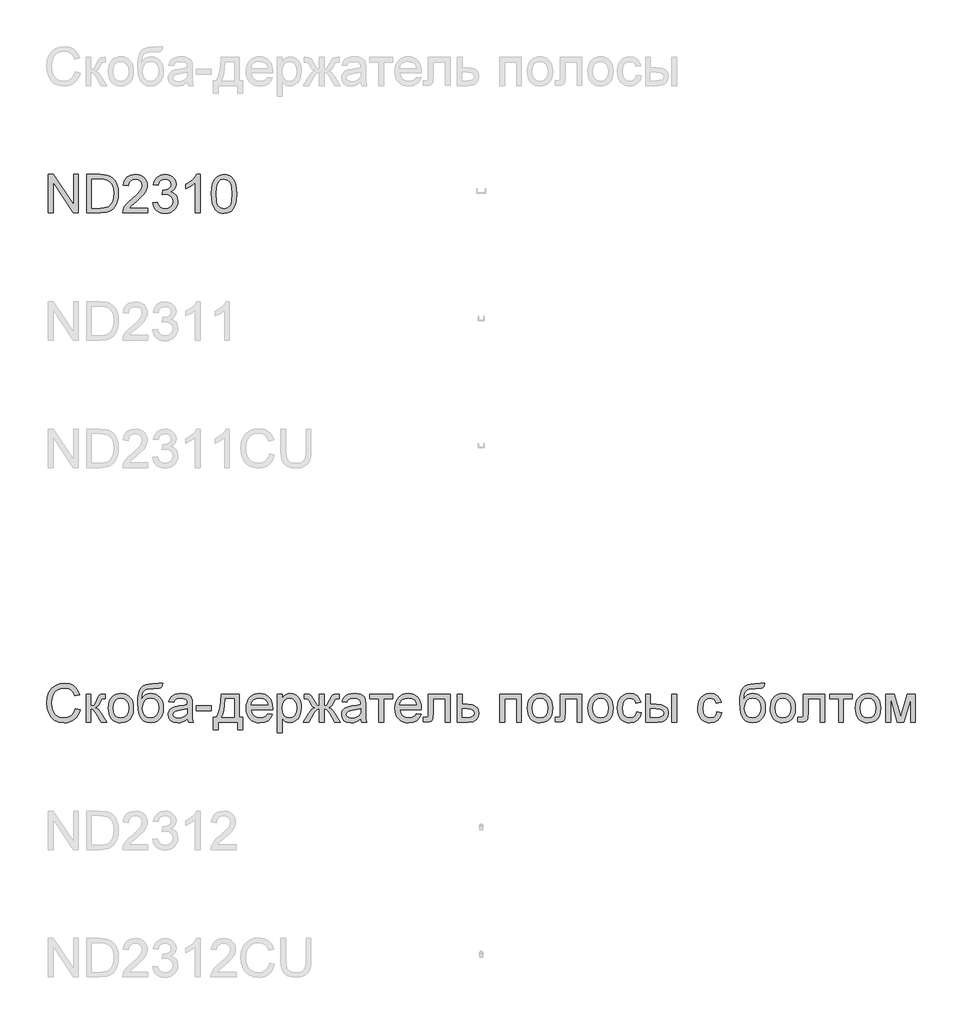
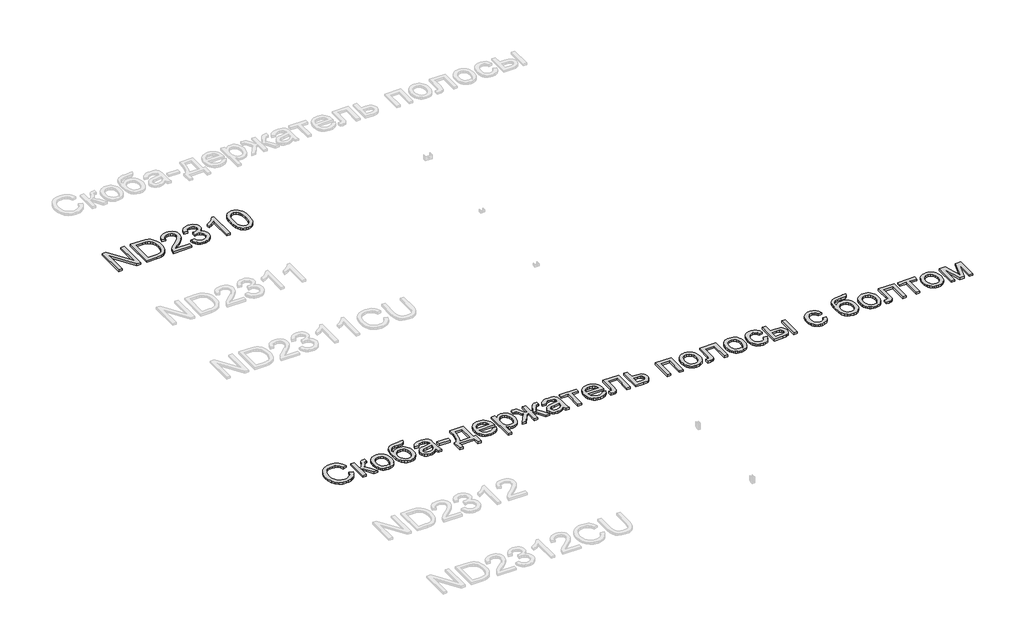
# One storey, part 106 of 124: 2 proxies.
"""IFC4 building model written with IfcOpenShell, lengths in millimetres."""

from ifc_helpers import new_model, si_unit, origin, origin_with_axes, place, context, project, spatial, polyline, outline, extrude, element, save

model = new_model("IFC4")

# Units and contexts
model_context = context("Model", 3, world=origin())
ifc_project = project(units=[si_unit("LENGTHUNIT", "METRE", prefix="MILLI")], contexts=[model_context])

# Site, building, storey
site = spatial("IfcSite", under=ifc_project)
building = spatial("IfcBuilding", under=site)
storey = spatial("IfcBuildingStorey", under=building, Name="Этаж 01", Elevation=0.0)

# Proxies
placement = place(None, origin())
element("IfcBuildingElementProxy", 1, Name="300", ObjectType="300", at=placement, inside=storey, context=model_context, shape_type="SweptSolid", body=[
    extrude(outline(polyline([(34161.4897718, -20050.5404686), (34161.4897718, -19749.1715382), (34201.8096385, -19749.1715382), (34359.2631324, -19987.9269531), (34359.2631324, -19749.1715382), (34396.9342487, -19749.1715382), (34396.9342487, -20050.5404686), (34356.6143821, -20050.5404686), (34199.1608881, -19811.7114774), (34199.1608881, -20050.5404686), (34161.4897718, -20050.5404686)])), origin_with_axes(), (0.0, 0.0, 1.0), 20.0),
    extrude(outline(polyline([(34462.8587023, -20050.5404686), (34462.8587023, -19749.1715382), (34566.8221541, -19749.1715382), (34620.6065018, -19753.5125457), (34644.6291961, -19761.8818611), (34664.899494, -19775.0704306), (34685.7400091, -19798.0262671), (34700.5840476, -19826.57391), (34709.4683977, -19860.1615361), (34712.4298478, -19898.2373226), (34710.4248909, -19930.5833471), (34704.4100203, -19959.0482164), (34695.2497586, -19983.2824429), (34683.8086286, -20002.9365385), (34670.6384532, -20018.4519616), (34656.2910553, -20030.2701707), (34639.819139, -20039.0349592), (34620.275408, -20045.3901207), (34571.8253492, -20050.5404686), (34462.8587023, -20050.5404686)]), holes=[polyline([(34500.5298186, -20012.8693523), (34567.1900361, -20012.8693523), (34594.7627916, -20011.508189), (34615.6768831, -20007.4246988), (34631.4590207, -20000.8580052), (34643.6359147, -19992.0472314), (34656.7233167, -19975.740862), (34666.554963, -19954.6336325), (34672.7077894, -19928.6335725), (34674.7587315, -19897.6487114), (34670.7396207, -19856.5930808), (34658.6822883, -19826.2796044), (34640.8676027, -19805.4574835), (34619.5764322, -19792.8759192), (34597.9081827, -19788.3509707), (34566.1599665, -19786.8426545), (34500.5298186, -19786.8426545), (34500.5298186, -20012.8693523)])]), origin_with_axes(), (0.0, 0.0, 1.0), 20.0),
    extrude(outline(polyline([(34943.1654352, -20012.8693523), (34943.1654352, -20050.5404686), (34745.3920746, -20050.5404686), (34749.4387765, -20024.5679998), (34758.7277969, -20004.2701107), (34772.3210366, -19984.5792269), (34791.9843293, -19963.9686381), (34819.4835084, -19940.9116341), (34860.1344689, -19904.8040162), (34884.5250452, -19878.1509657), (34896.7203333, -19856.5195044), (34900.7854293, -19835.4766543), (34896.9502595, -19816.613505), (34885.4447501, -19800.9325349), (34867.7588232, -19790.3651246), (34845.3824009, -19786.8426545), (34821.8839384, -19790.2823512), (34803.6277944, -19800.6014411), (34791.8463735, -19816.990584), (34787.7720804, -19838.6404394), (34750.1009641, -19833.9315499), (34759.2336346, -19797.4928383), (34767.7799932, -19782.9569009), (34778.9797007, -19770.8765759), (34792.5752397, -19761.3806219), (34808.3090928, -19754.5977976), (34846.1917413, -19749.1715382), (34866.381565, -19750.6798544), (34884.3503012, -19755.2048029), (34900.0979499, -19762.7463838), (34913.624511, -19773.3045971), (34924.4885261, -19786.0976935), (34932.248537, -19800.3439237), (34936.9045435, -19816.0432879), (34938.4565456, -19833.1957859), (34936.7826826, -19851.2128066), (34931.7610933, -19868.9171276), (34922.849152, -19886.9249513), (34909.5042326, -19905.8524799), (34888.2314563, -19928.4496315), (34855.5359439, -19957.4663239), (34812.1994449, -19993.7027004), (34795.2032967, -20012.8693523), (34943.1654352, -20012.8693523)])), origin_with_axes(), (0.0, 0.0, 1.0), 20.0),
    extrude(outline(polyline([(34980.8365515, -19970.4893465), (35018.5076678, -19965.7804569), (35026.9413625, -19989.4536633), (35039.2930005, -20005.438136), (35056.169587, -20014.5432154), (35078.1781274, -20017.5782419), (35104.0034435, -20013.4027812), (35123.9426476, -20000.8763993), (35136.6897587, -19982.1879939), (35140.9387958, -19959.526463), (35136.7265469, -19938.0145634), (35124.0898004, -19920.5677597), (35104.9599367, -19909.007068), (35081.2683362, -19905.1535041), (35054.8544089, -19909.2737825), (35059.0482637, -19871.6026662), (35065.0815284, -19872.0441246), (35087.6510888, -19869.3401919), (35107.8294162, -19861.2283939), (35122.0664494, -19847.5063955), (35126.8121272, -19827.9718616), (35123.3724305, -19811.7022803), (35113.0533406, -19798.5045137), (35097.3079912, -19789.7581193), (35077.5895162, -19786.8426545), (35057.8342531, -19789.7857105), (35041.6842335, -19798.6148783), (35029.8936155, -19813.3301581), (35023.2165573, -19833.9315499), (34985.545441, -19829.2226603), (34996.6370832, -19795.3959109), (35016.3739522, -19770.1408119), (35043.3764907, -19754.4138566), (35076.265141, -19749.1715382), (35099.9475445, -19751.7559092), (35121.6985674, -19759.5090223), (35140.0374849, -19771.7410986), (35153.4835718, -19787.7623595), (35161.7333256, -19806.2208386), (35164.4832435, -19825.7645696), (35161.8712813, -19843.9747283), (35154.0353948, -19860.4926299), (35141.0859486, -19874.5641162), (35123.1333072, -19885.4350292), (35146.7145431, -19894.9631729), (35164.1889379, -19911.1867689), (35175.0046685, -19933.2229004), (35178.6099121, -19960.1886506), (35176.8072903, -19979.3001203), (35171.399425, -19996.9032737), (35162.3863161, -20012.998111), (35149.7679637, -20027.5846321), (35134.3950948, -20039.6879498), (35117.1184366, -20048.3331767), (35097.9379891, -20053.5203128), (35076.8537522, -20055.2493582), (35057.7974649, -20053.7732317), (35040.4334347, -20049.3448522), (35024.7616617, -20041.9642196), (35010.7821459, -20031.6313341), (34999.0605058, -20018.9532008), (34990.1623601, -20004.5368251), (34984.0877086, -19988.382207), (34980.8365515, -19970.4893465)])), origin_with_axes(), (0.0, 0.0, 1.0), 20.0),
    extrude(outline(polyline([(35352.838825, -20050.5404686), (35315.1677087, -20050.5404686), (35315.1677087, -19815.6846029), (35279.4831552, -19841.1052488), (35239.8254761, -19860.1247479), (35239.8254761, -19824.5137708), (35269.4123856, -19808.4189335), (35295.0445636, -19789.2706757), (35315.2504822, -19768.9084072), (35328.5586133, -19749.1715382), (35352.838825, -19749.1715382), (35352.838825, -20050.5404686)])), origin_with_axes(), (0.0, 0.0, 1.0), 20.0),
    extrude(outline(polyline([(35442.3077262, -19902.2840246), (35445.0760383, -19854.045498), (35453.3809743, -19815.5742383), (35467.1397609, -19786.2816345), (35486.2696247, -19765.5790752), (35510.9085213, -19753.2734224), (35541.1944065, -19749.1715382), (35564.4077604, -19751.5995594), (35585.1930932, -19758.8836229), (35602.5755174, -19770.7386202), (35615.580146, -19786.8794427), (35625.4025952, -19807.1681347), (35633.2384817, -19831.4667405), (35638.3704356, -19862.3228429), (35640.0810868, -19902.2840246), (35637.340366, -19950.2466397), (35629.1182034, -19988.6259289), (35615.4421902, -20017.9461239), (35596.3399176, -20038.7314566), (35571.6458387, -20051.1198828), (35541.1944065, -20055.2493582), (35520.445862, -20053.4559335), (35502.0517623, -20048.0756593), (35486.0121073, -20039.1085356), (35472.326897, -20026.5545626), (35459.1935098, -20003.860842), (35449.8125189, -19975.5845121), (35444.1839244, -19941.725573), (35442.3077262, -19902.2840246)]), holes=[polyline([(35479.9788425, -19902.2104482), (35484.3934265, -19961.4670406), (35489.9116564, -19981.7350392), (35497.6371783, -19995.7628396), (35517.3556533, -20012.1243913), (35541.1944065, -20017.5782419), (35565.0331598, -20012.1059972), (35584.7516348, -19995.6892632), (35592.4771567, -19981.6384702), (35597.9953866, -19961.3750701), (35602.4099705, -19902.2104482), (35598.1425394, -19844.287428), (35592.8082505, -19824.086108), (35585.340246, -19809.7249146), (35565.6585592, -19792.5632195), (35540.7529481, -19786.8426545), (35517.1717123, -19791.8826378), (35498.2257895, -19807.0025878), (35490.2427502, -19822.6375726), (35484.5405793, -19843.7172109), (35479.9788425, -19902.2104482)])]), origin_with_axes(), (0.0, 0.0, 1.0), 20.0),
])
element("IfcBuildingElementProxy", 2, Name="300", ObjectType="300", at=placement, inside=storey, context=model_context, shape_type="SweptSolid", body=[
    extrude(outline(polyline([(34373.3898011, -23943.4132316), (34411.0609174, -23953.1253163), (34403.6067084, -23976.5525016), (34393.6784931, -23997.0228354), (34381.2762713, -24014.5363176), (34366.4000431, -24029.0929483), (34349.3855009, -24040.5363776), (34330.5683368, -24048.7102557), (34309.948551, -24053.6145826), (34287.5261434, -24055.2493582), (34243.8309594, -24050.3013453), (34209.1304902, -24035.4573068), (34182.532622, -24011.2322775), (34163.1452408, -23978.141292), (34151.3086376, -23939.237771), (34147.3631032, -23897.575135), (34151.8236724, -23853.6316307), (34165.20538, -23815.6846029), (34186.8092501, -23784.9388652), (34215.9363071, -23762.599231), (34250.4804265, -23748.9967942), (34288.3354838, -23744.4626487), (34329.6394348, -23750.3303665), (34347.608171, -23757.6650138), (34363.788081, -23767.9335199), (34377.9124503, -23780.8645721), (34389.7145646, -23796.1868572), (34406.3520278, -23834.0051263), (34368.6809115, -23842.981447), (34355.6211007, -23815.509859), (34337.7788239, -23796.6651038), (34314.933352, -23785.7665997), (34286.8639558, -23782.133765), (34254.5087343, -23786.1620728), (34227.9292602, -23798.2469963), (34207.7601298, -23817.1193427), (34194.6359396, -23841.509919), (34187.4346495, -23869.0826745), (34185.0342195, -23897.5015586), (34187.8761079, -23932.3031954), (34196.4017732, -23962.3959426), (34210.933112, -23986.630169), (34231.7920211, -24003.8562435), (34256.7987997, -24014.1477423), (34283.773747, -24017.5782419), (34315.2184606, -24012.9061405), (34341.4208557, -23998.8898365), (34361.20371, -23975.6764826), (34373.3898011, -23943.4132316)])), origin_with_axes(), (0.0, 0.0, 1.0), 20.0),
    extrude(outline(polyline([(34458.1498127, -23829.2226603), (34495.820929, -23829.2226603), (34495.820929, -23923.4004511), (34511.1432141, -23921.7081939), (34521.0576339, -23916.6314224), (34529.8316195, -23903.3876706), (34541.732602, -23877.1944725), (34558.9126912, -23843.165388), (34574.0694294, -23832.0921399), (34601.6237909, -23829.2226603), (34608.834278, -23829.2226603), (34608.834278, -23867.1145058), (34598.6807349, -23866.8937766), (34580.2866351, -23870.8669022), (34567.3371889, -23895.6621487), (34552.1436625, -23922.4807461), (34530.843295, -23935.6141333), (34542.7810657, -23940.9162326), (34554.6084719, -23950.2742309), (34577.9321904, -23981.1579243), (34618.252057, -24050.5404686), (34575.4305928, -24050.5404686), (34535.9200665, -23982.6294523), (34516.0544388, -23953.8978685), (34506.7654184, -23948.6831412), (34495.820929, -23946.9448988), (34495.820929, -24050.5404686), (34458.1498127, -24050.5404686), (34458.1498127, -23829.2226603)])), origin_with_axes(), (0.0, 0.0, 1.0), 20.0),
    extrude(outline(polyline([(34632.3787257, -23939.8815645), (34634.4158722, -23911.2189585), (34640.5273118, -23886.5202811), (34650.7130446, -23865.7855321), (34664.9730704, -23849.0147117), (34679.3296653, -23838.29555), (34695.1761822, -23830.639006), (34712.5126213, -23826.0450796), (34731.3389824, -23824.5137708), (34752.1220158, -23826.3784727), (34770.913888, -23831.9725783), (34787.7145989, -23841.2960876), (34802.5241484, -23854.3490006), (34814.6113712, -23870.689859), (34823.2451018, -23889.8772043), (34828.4253401, -23911.9110365), (34830.1520863, -23936.7913557), (34827.0986657, -23974.8487481), (34817.938404, -24003.8194553), (34802.9380157, -24025.5152959), (34782.3642151, -24041.748089), (34757.9276536, -24051.8740409), (34731.3389824, -24055.2493582), (34710.2524462, -24053.3915541), (34691.2858301, -24047.8181419), (34674.439134, -24038.5291215), (34659.7123579, -24025.524493), (34647.7538938, -24009.0249855), (34639.2121337, -23989.2513282), (34634.0870777, -23966.2035212), (34632.3787257, -23939.8815645)]), holes=[polyline([(34670.049842, -23939.8079881), (34674.4092436, -23973.901452), (34687.4874485, -23998.1908607), (34707.1691353, -24012.7313966), (34731.3389824, -24017.5782419), (34755.3984648, -24012.7038054), (34775.0433634, -23998.0804961), (34788.1215683, -23973.4691906), (34792.48097, -23938.6307657), (34788.0939772, -23905.5305832), (34774.9329988, -23881.5722683), (34755.2605091, -23867.0317324), (34731.3389824, -23862.1848871), (34707.1691353, -23867.0133383), (34687.4874485, -23881.4986919), (34674.4092436, -23905.7329183), (34670.049842, -23939.8079881)])]), origin_with_axes(), (0.0, 0.0, 1.0), 20.0),
    extrude(outline(polyline([(35027.9254469, -23744.4626487), (35060.8876736, -23744.4626487), (35057.3192183, -23762.3693048), (35051.175589, -23773.8564201), (35042.6591208, -23780.6530399), (35031.9721488, -23784.4882097), (34985.8397466, -23786.8426545), (34947.5340339, -23789.0131583), (34923.7044776, -23795.5246696), (34909.4490503, -23806.8186468), (34899.8657243, -23823.3365484), (34894.2279328, -23845.207133), (34891.8091087, -23872.5591594), (34906.9566498, -23851.5163092), (34924.4402416, -23836.5067238), (34944.2782782, -23827.5120091), (34966.4891537, -23824.5137708), (34987.0123705, -23826.4198594), (35005.6869803, -23832.1381252), (35022.512983, -23841.6685681), (35037.4903787, -23855.0111882), (35049.7868344, -23871.6049654), (35058.5700171, -23890.8888798), (35063.8399266, -23912.8629312), (35065.5965632, -23937.5271197), (35062.1108813, -23973.4875847), (35051.6538356, -24002.3479273), (35036.4143239, -24024.7795319), (35018.5812442, -24041.4537834), (34995.9932897, -24051.8004645), (34966.4891537, -24055.2493582), (34932.4876603, -24050.8071831), (34907.0026351, -24037.4806578), (34888.2498504, -24017.228754), (34874.4450785, -23992.0104432), (34865.9470044, -23954.0358243), (34863.114313, -23895.5149959), (34864.90084, -23855.850419), (34870.2604208, -23823.2353809), (34879.1930555, -23797.6698815), (34891.6987441, -23779.1539208), (34907.9108437, -23766.0366284), (34927.9627117, -23756.6671338), (34951.8543481, -23751.0454371), (34979.5857527, -23749.1715382), (35021.5243002, -23748.3254096), (35027.9254469, -23744.4626487)]), holes=[polyline([(35027.9254469, -23936.3498973), (35023.8419567, -23906.7078056), (35011.5914863, -23882.9702198), (34991.9097995, -23867.3812203), (34965.5326605, -23862.1848871), (34938.0334813, -23867.6755259), (34926.9464377, -23874.5388244), (34917.6344247, -23884.1474422), (34904.9976782, -23909.7980143), (34900.7854293, -23942.8246205), (34905.4391366, -23974.8395511), (34919.4002583, -23998.3380135), (34940.185591, -24012.7681848), (34965.3119313, -24017.5782419), (34990.5670303, -24012.0140267), (35010.5614167, -23995.3213812), (35023.5844393, -23969.4500799), (35027.9254469, -23936.3498973)])]), origin_with_axes(), (0.0, 0.0, 1.0), 20.0),
    extrude(outline(polyline([(35253.9521447, -24022.2871314), (35235.9535181, -24037.7197811), (35217.4214626, -24047.8181419), (35197.9329139, -24053.3915541), (35177.0648077, -24055.2493582), (35145.583306, -24050.7795919), (35122.360755, -24037.3702932), (35108.0409484, -24017.0080248), (35103.2676795, -23991.6793494), (35105.0703013, -23976.0627587), (35110.4781666, -23961.8809078), (35118.8198908, -23949.740802), (35129.4240893, -23940.2494465), (35155.8012284, -23927.8886114), (35188.3955732, -23922.2232287), (35226.9128181, -23916.2635404), (35253.7314155, -23909.2737825), (35253.9521447, -23900.886073), (35251.3585766, -23884.0738658), (35243.5778724, -23873.0741942), (35226.1770541, -23864.9072139), (35201.9336306, -23862.1848871), (35179.4928289, -23863.9967059), (35163.8210559, -23869.4321624), (35153.1340839, -23879.4845379), (35145.6476853, -23895.1471139), (35107.976569, -23890.4382243), (35114.5156715, -23869.8368326), (35124.2737414, -23853.6500248), (35138.1612867, -23841.2707957), (35157.0888154, -23832.0921399), (35180.2377899, -23826.4083631), (35206.7896729, -23824.5137708), (35232.256304, -23826.1876339), (35252.4438285, -23831.2092231), (35267.6649461, -23838.7600011), (35278.2323564, -23848.0214303), (35285.2405084, -23859.4717574), (35289.783851, -23873.589229), (35291.623261, -23906.5514557), (35291.623261, -23953.4196219), (35293.5362474, -24018.8658289), (35301.0410401, -24050.5404686), (35263.3699238, -24050.5404686), (35253.9521447, -24022.2871314)]), holes=[polyline([(35253.9521447, -23946.9448988), (35193.1780391, -23958.4963934), (35160.7676353, -23964.6032346), (35146.0891437, -23974.5360484), (35140.9387958, -23989.030599), (35143.743896, -24000.2326058), (35152.1591966, -24009.4112616), (35166.0007567, -24015.5364968), (35185.0846352, -24017.5782419), (35205.3181449, -24015.3249646), (35223.1972099, -24008.565133), (35237.6917605, -23998.604728), (35247.7717272, -23986.7497307), (35252.2414934, -23974.5360484), (35253.7314155, -23957.6134767), (35253.9521447, -23946.9448988)])]), origin_with_axes(), (0.0, 0.0, 1.0), 20.0),
    extrude(outline(polyline([(35324.5854878, -23961.0715674), (35324.5854878, -23923.4004511), (35442.3077262, -23923.4004511), (35442.3077262, -23961.0715674), (35324.5854878, -23961.0715674)])), origin_with_axes(), (0.0, 0.0, 1.0), 20.0),
    extrude(outline(polyline([(35517.6499588, -23829.2226603), (35658.916645, -23829.2226603), (35658.916645, -24012.8693523), (35687.1699822, -24012.8693523), (35687.1699822, -24111.7560326), (35649.4988659, -24111.7560326), (35649.4988659, -24050.5404686), (35494.1055112, -24050.5404686), (35494.1055112, -24111.7560326), (35456.4343949, -24111.7560326), (35456.4343949, -24012.8693523), (35479.9788425, -24012.8693523), (35497.0945524, -23981.9396736), (35509.0783084, -23941.0219987), (35515.9301105, -23890.1163276), (35517.6499588, -23829.2226603)]), holes=[polyline([(35550.6121856, -23866.8937766), (35547.5219769, -23913.0169818), (35541.7830177, -23952.7206461), (35533.3953082, -23986.0047696), (35522.3588484, -24012.8693523), (35621.2455287, -24012.8693523), (35621.2455287, -23866.8937766), (35550.6121856, -23866.8937766)])]), origin_with_axes(), (0.0, 0.0, 1.0), 20.0),
    extrude(outline(polyline([(35884.5018844, -23984.6160151), (35921.4372368, -23989.3249046), (35908.1291056, -24017.1551776), (35886.8931174, -24037.9589044), (35858.2075188, -24050.9267447), (35822.5505565, -24055.2493582), (35799.1762542, -24053.3846563), (35778.3495347, -24047.7905507), (35760.0703981, -24038.4670414), (35744.3388443, -24025.4141284), (35731.6883022, -24008.9950951), (35722.6522007, -23989.573225), (35717.2305398, -23967.1485181), (35715.4233195, -23941.7209745), (35717.2489339, -23915.4312074), (35722.7257771, -23892.2592402), (35731.8538491, -23872.205073), (35744.6331499, -23855.2687056), (35760.323317, -23841.8134216), (35778.1839878, -23832.2025045), (35798.2151625, -23826.4359542), (35820.4168409, -23824.5137708), (35841.9034487, -23826.4313557), (35861.3345158, -23832.1841104), (35878.7100423, -23841.7720349), (35894.0300281, -23855.1951292), (35906.5357167, -23872.0947084), (35915.4683514, -23892.1120874), (35920.8279322, -23915.2472664), (35922.6144591, -23941.5002453), (35922.3937299, -23951.6537883), (35753.0944358, -23951.6537883), (35759.6151441, -23979.8519433), (35774.7626853, -24000.5820937), (35796.6240728, -24013.3292048), (35823.2863204, -24017.5782419), (35843.3358892, -24015.6100732), (35860.2216728, -24009.7055672), (35873.9436712, -23999.4968418), (35884.5018844, -23984.6160151)]), holes=[polyline([(35753.0944358, -23913.982672), (35884.9433428, -23913.982672), (35879.8481772, -23894.0802561), (35869.860181, -23879.8432229), (35847.8976259, -23866.599471), (35820.2696881, -23862.1848871), (35794.8766334, -23865.7073572), (35773.8797685, -23876.2747675), (35759.2840503, -23892.7466839), (35753.0944358, -23913.982672)])]), origin_with_axes(), (0.0, 0.0, 1.0), 20.0),
    extrude(outline(polyline([(35960.2855754, -24135.3004803), (35960.2855754, -23829.2226603), (35997.9566918, -23829.2226603), (35997.9566918, -23866.1580127), (36010.2439504, -23847.9386568), (36024.002737, -23834.9248313), (36040.042392, -23827.1165359), (36059.1722557, -23824.5137708), (36084.6480839, -23828.1558026), (36106.9233387, -23839.0818978), (36125.0599211, -23856.629869), (36138.1197319, -23880.1375285), (36146.0108007, -23907.894225), (36148.641157, -23938.1893073), (36145.6705099, -23970.406573), (36136.7585685, -23999.2209303), (36122.1904415, -24023.1700482), (36102.2512374, -24040.7915958), (36079.0286864, -24051.6349176), (36054.610519, -24055.2493582), (36037.2924741, -24052.8305341), (36021.8322332, -24045.5740617), (36008.5976785, -24034.6203753), (35997.9566918, -24021.109909), (35997.9566918, -24135.3004803), (35960.2855754, -24135.3004803)]), holes=[polyline([(35997.9566918, -23941.6473981), (36002.0309848, -23975.4189652), (36014.2538641, -23999.0369893), (36032.289279, -24012.9429287), (36053.8011786, -24017.5782419), (36075.6625662, -24012.7773818), (36094.1578335, -23998.3748017), (36106.7669889, -23973.8922549), (36110.9700407, -23938.8514949), (36106.8681564, -23905.2638687), (36094.5625037, -23881.3147509), (36076.55468, -23866.967353), (36055.346283, -23862.1848871), (36034.0551125, -23867.2708557), (36015.3575101, -23882.5287614), (36002.3068963, -23907.4803578), (35997.9566918, -23941.6473981)])]), origin_with_axes(), (0.0, 0.0, 1.0), 20.0),
    extrude(outline(polyline([(36327.5789594, -23829.2226603), (36327.5789594, -23923.4004511), (36340.8686965, -23921.4598736), (36349.5415145, -23915.638141), (36370.3268473, -23875.3550625), (36383.2946876, -23850.2471164), (36395.1220937, -23836.727453), (36409.4878857, -23831.0988585), (36430.3651889, -23829.2226603), (36445.3011979, -23829.2226603), (36445.3011979, -23867.1145058), (36434.9269256, -23866.8937766), (36415.5027563, -23870.7933258), (36402.0382753, -23895.2206903), (36386.4032905, -23922.0024995), (36364.0728534, -23935.6141333), (36376.4658781, -23940.9162326), (36388.7025529, -23950.2742309), (36412.7068531, -23981.1579243), (36454.718977, -24050.5404686), (36411.5296307, -24050.5404686), (36370.1796945, -23982.1144175), (36358.8765202, -23964.1525791), (36349.1000561, -23953.6771393), (36339.2132275, -23948.6279589), (36327.5789594, -23946.9448988), (36327.5789594, -24050.5404686), (36289.9078431, -24050.5404686), (36289.9078431, -23946.9448988), (36278.3655455, -23948.5911707), (36268.4603228, -23953.5299865), (36258.6102824, -23963.9318499), (36247.2335317, -23981.9672647), (36205.8835954, -24050.5404686), (36162.7678256, -24050.5404686), (36204.6327966, -23981.1579243), (36228.8210378, -23950.2742309), (36241.122092, -23940.9162326), (36253.561102, -23935.6141333), (36239.176916, -23928.4036462), (36229.8695015, -23920.6045479), (36209.5624154, -23881.9769384), (36199.6296015, -23869.2482214), (36183.3692173, -23866.6730474), (36172.1856047, -23866.8937766), (36172.1856047, -23829.2226603), (36177.8509874, -23829.2226603), (36210.8867906, -23831.5771051), (36228.0300915, -23841.5834954), (36247.2335317, -23875.3550625), (36267.7981352, -23915.3806236), (36276.4709533, -23921.3954942), (36289.9078431, -23923.4004511), (36289.9078431, -23829.2226603), (36327.5789594, -23829.2226603)])), origin_with_axes(), (0.0, 0.0, 1.0), 20.0),
    extrude(outline(polyline([(36614.8212213, -24022.2871314), (36596.8225947, -24037.7197811), (36578.2905391, -24047.8181419), (36558.8019904, -24053.3915541), (36537.9338843, -24055.2493582), (36506.4523825, -24050.7795919), (36483.2298316, -24037.3702932), (36468.9100249, -24017.0080248), (36464.136756, -23991.6793494), (36465.9393778, -23976.0627587), (36471.3472431, -23961.8809078), (36479.6889674, -23949.740802), (36490.2931659, -23940.2494465), (36516.670305, -23927.8886114), (36549.2646497, -23922.2232287), (36587.7818946, -23916.2635404), (36614.6004921, -23909.2737825), (36614.8212213, -23900.886073), (36612.2276532, -23884.0738658), (36604.446949, -23873.0741942), (36587.0461306, -23864.9072139), (36562.8027071, -23862.1848871), (36540.3619054, -23863.9967059), (36524.6901324, -23869.4321624), (36514.0031605, -23879.4845379), (36506.5167619, -23895.1471139), (36468.8456456, -23890.4382243), (36475.384748, -23869.8368326), (36485.142818, -23853.6500248), (36499.0303633, -23841.2707957), (36517.9578919, -23832.0921399), (36541.1068665, -23826.4083631), (36567.6587495, -23824.5137708), (36593.1253806, -23826.1876339), (36613.3129051, -23831.2092231), (36628.5340226, -23838.7600011), (36639.1014329, -23848.0214303), (36646.109585, -23859.4717574), (36650.6529276, -23873.589229), (36652.4923376, -23906.5514557), (36652.4923376, -23953.4196219), (36654.4053239, -24018.8658289), (36661.9101166, -24050.5404686), (36624.2390003, -24050.5404686), (36614.8212213, -24022.2871314)]), holes=[polyline([(36614.8212213, -23946.9448988), (36554.0471157, -23958.4963934), (36521.6367119, -23964.6032346), (36506.9582203, -23974.5360484), (36501.8078723, -23989.030599), (36504.6129726, -24000.2326058), (36513.0282732, -24009.4112616), (36526.8698333, -24015.5364968), (36545.9537118, -24017.5782419), (36566.1872215, -24015.3249646), (36584.0662865, -24008.565133), (36598.5608371, -23998.604728), (36608.6408037, -23986.7497307), (36613.11057, -23974.5360484), (36614.6004921, -23957.6134767), (36614.8212213, -23946.9448988)])]), origin_with_axes(), (0.0, 0.0, 1.0), 20.0),
    extrude(outline(polyline([(36685.4545643, -23829.2226603), (36864.3923668, -23829.2226603), (36864.3923668, -23866.8937766), (36793.7590237, -23866.8937766), (36793.7590237, -24050.5404686), (36756.0879074, -24050.5404686), (36756.0879074, -23866.8937766), (36685.4545643, -23866.8937766), (36685.4545643, -23829.2226603)])), origin_with_axes(), (0.0, 0.0, 1.0), 20.0),
    extrude(outline(polyline([(37052.3064899, -23984.6160151), (37089.2418422, -23989.3249046), (37075.9337111, -24017.1551776), (37054.6977229, -24037.9589044), (37026.0121243, -24050.9267447), (36990.3551619, -24055.2493582), (36966.9808597, -24053.3846563), (36946.1541402, -24047.7905507), (36927.8750036, -24038.4670414), (36912.1434498, -24025.4141284), (36899.4929077, -24008.9950951), (36890.4568062, -23989.573225), (36885.0351452, -23967.1485181), (36883.2279249, -23941.7209745), (36885.0535393, -23915.4312074), (36890.5303825, -23892.2592402), (36899.6584546, -23872.205073), (36912.4377554, -23855.2687056), (36928.1279225, -23841.8134216), (36945.9885933, -23832.2025045), (36966.019768, -23826.4359542), (36988.2214464, -23824.5137708), (37009.7080541, -23826.4313557), (37029.1391213, -23832.1841104), (37046.5146478, -23841.7720349), (37061.8346336, -23855.1951292), (37074.3403222, -23872.0947084), (37083.2729569, -23892.1120874), (37088.6325377, -23915.2472664), (37090.4190646, -23941.5002453), (37090.1983354, -23951.6537883), (36920.8990413, -23951.6537883), (36927.4197496, -23979.8519433), (36942.5672908, -24000.5820937), (36964.4286783, -24013.3292048), (36991.0909259, -24017.5782419), (37011.1404947, -24015.6100732), (37028.0262782, -24009.7055672), (37041.7482767, -23999.4968418), (37052.3064899, -23984.6160151)]), holes=[polyline([(36920.8990413, -23913.982672), (37052.7479483, -23913.982672), (37047.6527827, -23894.0802561), (37037.6647865, -23879.8432229), (37015.7022314, -23866.599471), (36988.0742936, -23862.1848871), (36962.6812389, -23865.7073572), (36941.684374, -23876.2747675), (36927.0886558, -23892.7466839), (36920.8990413, -23913.982672)])]), origin_with_axes(), (0.0, 0.0, 1.0), 20.0),
    extrude(outline(polyline([(37146.9257391, -23829.2226603), (37316.4457625, -23829.2226603), (37316.4457625, -24050.3197394), (37278.7746462, -24050.3197394), (37278.7746462, -23866.8937766), (37184.5968554, -23866.8937766), (37184.5968554, -23972.4759093), (37182.0584696, -24021.1834854), (37177.3035948, -24032.2107482), (37168.115742, -24041.748089), (37154.1730144, -24048.3423737), (37135.1535152, -24050.5404686), (37104.5457332, -24048.6274823), (37104.5457332, -24012.8693523), (37121.3947286, -24012.8693523), (37138.427665, -24010.5516958), (37145.2334819, -24003.1940559), (37146.9257391, -23970.3421937), (37146.9257391, -23829.2226603)])), origin_with_axes(), (0.0, 0.0, 1.0), 20.0),
    extrude(outline(polyline([(37372.9524369, -23829.2226603), (37410.6235532, -23829.2226603), (37410.6235532, -23909.2737825), (37454.0336287, -23909.2737825), (37491.6679568, -23913.9918691), (37506.8154979, -23919.8894773), (37519.5166238, -23928.1461288), (37529.5598023, -23938.4767151), (37536.7335012, -23950.5961276), (37542.4724603, -23980.2014312), (37537.5888268, -24007.1579844), (37522.9379264, -24029.9022887), (37511.7060292, -24038.9314924), (37497.5448716, -24045.3809237), (37460.4347754, -24050.5404686), (37372.9524369, -24050.5404686), (37372.9524369, -23829.2226603)]), holes=[polyline([(37410.6235532, -24012.8693523), (37445.793072, -24012.8693523), (37473.080719, -24010.8919866), (37491.2264984, -24004.9598894), (37501.4076326, -23994.8339375), (37504.801344, -23980.2750076), (37502.2905494, -23967.9693548), (37494.7581655, -23957.0984419), (37478.617343, -23949.4832846), (37450.2812323, -23946.9448988), (37410.6235532, -23946.9448988), (37410.6235532, -24012.8693523)])]), origin_with_axes(), (0.0, 0.0, 1.0), 20.0),
    extrude(outline(polyline([(37707.2835941, -23829.2226603), (37876.8036175, -23829.2226603), (37876.8036175, -24050.5404686), (37839.1325012, -24050.5404686), (37839.1325012, -23866.8937766), (37744.9547104, -23866.8937766), (37744.9547104, -24050.5404686), (37707.2835941, -24050.5404686), (37707.2835941, -23829.2226603)])), origin_with_axes(), (0.0, 0.0, 1.0), 20.0),
    extrude(outline(polyline([(37923.8925129, -23939.8815645), (37925.9296595, -23911.2189585), (37932.0410991, -23886.5202811), (37942.2268318, -23865.7855321), (37956.4868577, -23849.0147117), (37970.8434525, -23838.29555), (37986.6899695, -23830.639006), (38004.0264085, -23826.0450796), (38022.8527696, -23824.5137708), (38043.6358031, -23826.3784727), (38062.4276752, -23831.9725783), (38079.2283861, -23841.2960876), (38094.0379357, -23854.3490006), (38106.1251585, -23870.689859), (38114.758889, -23889.8772043), (38119.9391274, -23911.9110365), (38121.6658735, -23936.7913557), (38118.6124529, -23974.8487481), (38109.4521913, -24003.8194553), (38094.4518029, -24025.5152959), (38073.8780023, -24041.748089), (38049.4414408, -24051.8740409), (38022.8527696, -24055.2493582), (38001.7662335, -24053.3915541), (37982.7996174, -24047.8181419), (37965.9529213, -24038.5291215), (37951.2261451, -24025.524493), (37939.267681, -24009.0249855), (37930.725921, -23989.2513282), (37925.6008649, -23966.2035212), (37923.8925129, -23939.8815645)]), holes=[polyline([(37961.5636292, -23939.8079881), (37965.9230309, -23973.901452), (37979.0012358, -23998.1908607), (37998.6829225, -24012.7313966), (38022.8527696, -24017.5782419), (38046.9122521, -24012.7038054), (38066.5571506, -23998.0804961), (38079.6353556, -23973.4691906), (38083.9947572, -23938.6307657), (38079.6077644, -23905.5305832), (38066.446786, -23881.5722683), (38046.7742963, -23867.0317324), (38022.8527696, -23862.1848871), (37998.6829225, -23867.0133383), (37979.0012358, -23881.4986919), (37965.9230309, -23905.7329183), (37961.5636292, -23939.8079881)])]), origin_with_axes(), (0.0, 0.0, 1.0), 20.0),
    extrude(outline(polyline([(38182.8814375, -23829.2226603), (38352.4014609, -23829.2226603), (38352.4014609, -24050.3197394), (38314.7303446, -24050.3197394), (38314.7303446, -23866.8937766), (38220.5525538, -23866.8937766), (38220.5525538, -23972.4759093), (38218.014168, -24021.1834854), (38213.2592933, -24032.2107482), (38204.0714404, -24041.748089), (38190.1287128, -24048.3423737), (38171.1092137, -24050.5404686), (38140.5014317, -24048.6274823), (38140.5014317, -24012.8693523), (38157.350427, -24012.8693523), (38174.3833634, -24010.5516958), (38181.1891803, -24003.1940559), (38182.8814375, -23970.3421937), (38182.8814375, -23829.2226603)])), origin_with_axes(), (0.0, 0.0, 1.0), 20.0),
    extrude(outline(polyline([(38399.4903563, -23939.8815645), (38401.5275028, -23911.2189585), (38407.6389425, -23886.5202811), (38417.8246752, -23865.7855321), (38432.084701, -23849.0147117), (38446.4412959, -23838.29555), (38462.2878128, -23830.639006), (38479.6242519, -23826.0450796), (38498.450613, -23824.5137708), (38519.2336464, -23826.3784727), (38538.0255186, -23831.9725783), (38554.8262295, -23841.2960876), (38569.635779, -23854.3490006), (38581.7230018, -23870.689859), (38590.3567324, -23889.8772043), (38595.5369708, -23911.9110365), (38597.2637169, -23936.7913557), (38594.2102963, -23974.8487481), (38585.0500346, -24003.8194553), (38570.0496463, -24025.5152959), (38549.4758457, -24041.748089), (38525.0392842, -24051.8740409), (38498.450613, -24055.2493582), (38477.3640769, -24053.3915541), (38458.3974607, -24047.8181419), (38441.5507646, -24038.5291215), (38426.8239885, -24025.524493), (38414.8655244, -24009.0249855), (38406.3237643, -23989.2513282), (38401.1987083, -23966.2035212), (38399.4903563, -23939.8815645)]), holes=[polyline([(38437.1614726, -23939.8079881), (38441.5208742, -23973.901452), (38454.5990791, -23998.1908607), (38474.2807659, -24012.7313966), (38498.450613, -24017.5782419), (38522.5100955, -24012.7038054), (38542.154994, -23998.0804961), (38555.2331989, -23973.4691906), (38559.5926006, -23938.6307657), (38555.2056078, -23905.5305832), (38542.0446294, -23881.5722683), (38522.3721397, -23867.0317324), (38498.450613, -23862.1848871), (38474.2807659, -23867.0133383), (38454.5990791, -23881.4986919), (38441.5208742, -23905.7329183), (38437.1614726, -23939.8079881)])]), origin_with_axes(), (0.0, 0.0, 1.0), 20.0),
    extrude(outline(polyline([(38780.9104089, -23970.4893465), (38818.5815252, -23975.198236), (38808.0784942, -24008.7030887), (38788.3416252, -24034.0225671), (38761.2287221, -24049.9426604), (38728.5975892, -24055.2493582), (38707.4696663, -24053.3984519), (38688.5260428, -24047.845733), (38671.7667187, -24038.5912016), (38657.1916939, -24025.6348576), (38645.3941782, -24009.2204228), (38636.9673812, -23989.5916191), (38631.911303, -23966.7484464), (38630.2259436, -23940.6909049), (38633.1046203, -23907.1676581), (38641.7406501, -23878.1141775), (38656.2719889, -23854.6525033), (38676.8365924, -23837.9046754), (38701.4387009, -23827.861497), (38728.0825544, -23824.5137708), (38759.913544, -23829.1122957), (38785.361781, -23842.9078706), (38803.617925, -23865.1647313), (38813.8726356, -23895.1471139), (38776.2015193, -23899.8560034), (38769.3681113, -23883.4208753), (38758.7271246, -23871.6394544), (38744.8671704, -23864.5485289), (38728.37686, -23862.1848871), (38704.0322689, -23866.8385943), (38684.7092671, -23880.7997161), (38672.1001117, -23904.8224103), (38667.8970599, -23939.6608353), (38672.0081412, -23974.9683098), (38684.3413851, -23999.0737775), (38703.314899, -24012.9521258), (38727.3467904, -24017.5782419), (38746.8537332, -24014.6903682), (38762.8474029, -24006.0267472), (38774.481671, -23991.3666497), (38780.9104089, -23970.4893465)])), origin_with_axes(), (0.0, 0.0, 1.0), 20.0),
    extrude(outline(polyline([(39058.7348916, -23829.2226603), (39096.4060079, -23829.2226603), (39096.4060079, -24050.5404686), (39058.7348916, -24050.5404686), (39058.7348916, -23829.2226603)])), origin_with_axes(), (0.0, 0.0, 1.0), 20.0),
    extrude(outline(polyline([(38851.5437519, -23829.2226603), (38889.2148682, -23829.2226603), (38889.2148682, -23909.2737825), (38935.7887288, -23909.2737825), (38976.0442162, -23913.9918691), (38992.2609144, -23919.8894773), (39005.8702489, -23928.1461288), (39016.6376951, -23938.4767151), (39024.328728, -23950.5961276), (39028.9433478, -23964.5043663), (39030.4815544, -23980.2014312), (39025.3220094, -24007.1579844), (39009.8433745, -24029.9022887), (38997.9814794, -24038.9314924), (38983.0339741, -24045.3809237), (38943.8821327, -24050.5404686), (38851.5437519, -24050.5404686), (38851.5437519, -23829.2226603)]), holes=[polyline([(38889.2148682, -24012.8693523), (38927.9160541, -24012.8693523), (38957.9168308, -24010.8919866), (38977.8744291, -24004.9598894), (38989.0764358, -23994.8339375), (38992.8104381, -23980.2750076), (38990.0421261, -23967.9693548), (38981.73719, -23957.0984419), (38963.9776867, -23949.4832846), (38932.8456729, -23946.9448988), (38889.2148682, -23946.9448988), (38889.2148682, -24012.8693523)])]), origin_with_axes(), (0.0, 0.0, 1.0), 20.0),
    extrude(outline(polyline([(39411.901607, -23970.4893465), (39449.5727233, -23975.198236), (39439.0696923, -24008.7030887), (39419.3328233, -24034.0225671), (39392.2199203, -24049.9426604), (39359.5887873, -24055.2493582), (39338.4608644, -24053.3984519), (39319.517241, -24047.845733), (39302.7579168, -24038.5912016), (39288.182892, -24025.6348576), (39276.3853763, -24009.2204228), (39267.9585793, -23989.5916191), (39262.9025012, -23966.7484464), (39261.2171418, -23940.6909049), (39264.0958184, -23907.1676581), (39272.7318482, -23878.1141775), (39287.263187, -23854.6525033), (39307.8277906, -23837.9046754), (39332.429899, -23827.861497), (39359.0737525, -23824.5137708), (39390.9047421, -23829.1122957), (39416.3529791, -23842.9078706), (39434.6091231, -23865.1647313), (39444.8638338, -23895.1471139), (39407.1927175, -23899.8560034), (39400.3593094, -23883.4208753), (39389.7183227, -23871.6394544), (39375.8583685, -23864.5485289), (39359.3680581, -23862.1848871), (39335.0234671, -23866.8385943), (39315.7004653, -23880.7997161), (39303.0913099, -23904.8224103), (39298.8882581, -23939.6608353), (39302.9993394, -23974.9683098), (39315.3325833, -23999.0737775), (39334.3060972, -24012.9521258), (39358.3379885, -24017.5782419), (39377.8449313, -24014.6903682), (39393.838601, -24006.0267472), (39405.4728691, -23991.3666497), (39411.901607, -23970.4893465)])), origin_with_axes(), (0.0, 0.0, 1.0), 20.0),
    extrude(outline(polyline([(39755.6505433, -23744.4626487), (39788.6127701, -23744.4626487), (39785.0443147, -23762.3693048), (39778.9006854, -23773.8564201), (39770.3842172, -23780.6530399), (39759.6972452, -23784.4882097), (39713.564843, -23786.8426545), (39675.2591303, -23789.0131583), (39651.4295741, -23795.5246696), (39637.1741467, -23806.8186468), (39627.5908208, -23823.3365484), (39621.9530292, -23845.207133), (39619.5342051, -23872.5591594), (39634.6817462, -23851.5163092), (39652.165338, -23836.5067238), (39672.0033746, -23827.5120091), (39694.2142501, -23824.5137708), (39714.7374669, -23826.4198594), (39733.4120767, -23832.1381252), (39750.2380794, -23841.6685681), (39765.2154752, -23855.0111882), (39777.5119308, -23871.6049654), (39786.2951135, -23890.8888798), (39791.5650231, -23912.8629312), (39793.3216596, -23937.5271197), (39789.8359777, -23973.4875847), (39779.378932, -24002.3479273), (39764.1394203, -24024.7795319), (39746.3063406, -24041.4537834), (39723.7183861, -24051.8004645), (39694.2142501, -24055.2493582), (39660.2127567, -24050.8071831), (39634.7277315, -24037.4806578), (39615.9749468, -24017.228754), (39602.1701749, -23992.0104432), (39593.6721008, -23954.0358243), (39590.8394094, -23895.5149959), (39592.6259364, -23855.850419), (39597.9855172, -23823.2353809), (39606.9181519, -23797.6698815), (39619.4238405, -23779.1539208), (39635.6359401, -23766.0366284), (39655.6878081, -23756.6671338), (39679.5794445, -23751.0454371), (39707.3108491, -23749.1715382), (39749.2493966, -23748.3254096), (39755.6505433, -23744.4626487)]), holes=[polyline([(39755.6505433, -23936.3498973), (39751.5670531, -23906.7078056), (39739.3165827, -23882.9702198), (39719.634896, -23867.3812203), (39693.2577569, -23862.1848871), (39665.7585778, -23867.6755259), (39654.6715341, -23874.5388244), (39645.3595211, -23884.1474422), (39632.7227746, -23909.7980143), (39628.5105258, -23942.8246205), (39633.164233, -23974.8395511), (39647.1253547, -23998.3380135), (39667.9106874, -24012.7681848), (39693.0370277, -24017.5782419), (39718.2921267, -24012.0140267), (39738.2865131, -23995.3213812), (39751.3095357, -23969.4500799), (39755.6505433, -23936.3498973)])]), origin_with_axes(), (0.0, 0.0, 1.0), 20.0),
    extrude(outline(polyline([(39830.9927759, -23939.8815645), (39833.0299224, -23911.2189585), (39839.1413621, -23886.5202811), (39849.3270948, -23865.7855321), (39863.5871207, -23849.0147117), (39877.9437155, -23838.29555), (39893.7902325, -23830.639006), (39911.1266715, -23826.0450796), (39929.9530326, -23824.5137708), (39950.7360661, -23826.3784727), (39969.5279382, -23831.9725783), (39986.3286491, -23841.2960876), (40001.1381987, -23854.3490006), (40013.2254215, -23870.689859), (40021.859152, -23889.8772043), (40027.0393904, -23911.9110365), (40028.7661365, -23936.7913557), (40025.7127159, -23974.8487481), (40016.5524543, -24003.8194553), (40001.5520659, -24025.5152959), (39980.9782653, -24041.748089), (39956.5417038, -24051.8740409), (39929.9530326, -24055.2493582), (39908.8664965, -24053.3915541), (39889.8998804, -24047.8181419), (39873.0531843, -24038.5291215), (39858.3264081, -24025.524493), (39846.367944, -24009.0249855), (39837.826184, -23989.2513282), (39832.7011279, -23966.2035212), (39830.9927759, -23939.8815645)]), holes=[polyline([(39868.6638922, -23939.8079881), (39873.0232938, -23973.901452), (39886.1014988, -23998.1908607), (39905.7831855, -24012.7313966), (39929.9530326, -24017.5782419), (39954.0125151, -24012.7038054), (39973.6574136, -23998.0804961), (39986.7356186, -23973.4691906), (39991.0950202, -23938.6307657), (39986.7080274, -23905.5305832), (39973.547049, -23881.5722683), (39953.8745593, -23867.0317324), (39929.9530326, -23862.1848871), (39905.7831855, -23867.0133383), (39886.1014988, -23881.4986919), (39873.0232938, -23905.7329183), (39868.6638922, -23939.8079881)])]), origin_with_axes(), (0.0, 0.0, 1.0), 20.0),
    extrude(outline(polyline([(40089.9817005, -23829.2226603), (40259.5017239, -23829.2226603), (40259.5017239, -24050.3197394), (40221.8306076, -24050.3197394), (40221.8306076, -23866.8937766), (40127.6528168, -23866.8937766), (40127.6528168, -23972.4759093), (40125.114431, -24021.1834854), (40120.3595563, -24032.2107482), (40111.1717034, -24041.748089), (40097.2289758, -24048.3423737), (40078.2094767, -24050.5404686), (40047.6016947, -24048.6274823), (40047.6016947, -24012.8693523), (40064.45069, -24012.8693523), (40081.4836264, -24010.5516958), (40088.2894433, -24003.1940559), (40089.9817005, -23970.3421937), (40089.9817005, -23829.2226603)])), origin_with_axes(), (0.0, 0.0, 1.0), 20.0),
    extrude(outline(polyline([(40297.1728402, -23829.2226603), (40476.1106426, -23829.2226603), (40476.1106426, -23866.8937766), (40405.4772996, -23866.8937766), (40405.4772996, -24050.5404686), (40367.8061833, -24050.5404686), (40367.8061833, -23866.8937766), (40297.1728402, -23866.8937766), (40297.1728402, -23829.2226603)])), origin_with_axes(), (0.0, 0.0, 1.0), 20.0),
    extrude(outline(polyline([(40499.6550903, -23939.8815645), (40501.6922369, -23911.2189585), (40507.8036765, -23886.5202811), (40517.9894093, -23865.7855321), (40532.2494351, -23849.0147117), (40546.60603, -23838.29555), (40562.4525469, -23830.639006), (40579.7889859, -23826.0450796), (40598.615347, -23824.5137708), (40619.3983805, -23826.3784727), (40638.1902527, -23831.9725783), (40654.9909635, -23841.2960876), (40669.8005131, -23854.3490006), (40681.8877359, -23870.689859), (40690.5214665, -23889.8772043), (40695.7017048, -23911.9110365), (40697.4284509, -23936.7913557), (40694.3750304, -23974.8487481), (40685.2147687, -24003.8194553), (40670.2143803, -24025.5152959), (40649.6405798, -24041.748089), (40625.2040182, -24051.8740409), (40598.615347, -24055.2493582), (40577.5288109, -24053.3915541), (40558.5621948, -24047.8181419), (40541.7154987, -24038.5291215), (40526.9887226, -24025.524493), (40515.0302585, -24009.0249855), (40506.4884984, -23989.2513282), (40501.3634423, -23966.2035212), (40499.6550903, -23939.8815645)]), holes=[polyline([(40537.3262066, -23939.8079881), (40541.6856083, -23973.901452), (40554.7638132, -23998.1908607), (40574.4455, -24012.7313966), (40598.615347, -24017.5782419), (40622.6748295, -24012.7038054), (40642.3197281, -23998.0804961), (40655.397933, -23973.4691906), (40659.7573346, -23938.6307657), (40655.3703418, -23905.5305832), (40642.2093635, -23881.5722683), (40622.5368738, -23867.0317324), (40598.615347, -23862.1848871), (40574.4455, -23867.0133383), (40554.7638132, -23881.4986919), (40541.6856083, -23905.7329183), (40537.3262066, -23939.8079881)])]), origin_with_axes(), (0.0, 0.0, 1.0), 20.0),
    extrude(outline(polyline([(40739.8084568, -23829.2226603), (40804.6292643, -23829.2226603), (40854.5876393, -24006.3946292), (40908.4455634, -23829.2226603), (40970.5440442, -23829.2226603), (40970.5440442, -24050.5404686), (40932.8729279, -24050.5404686), (40932.8729279, -23872.3384302), (40878.7206982, -24050.5404686), (40829.277358, -24050.5404686), (40777.4795731, -23863.8035679), (40777.4795731, -24050.5404686), (40739.8084568, -24050.5404686), (40739.8084568, -23829.2226603)])), origin_with_axes(), (0.0, 0.0, 1.0), 20.0),
])

save(model, "model.ifc")
